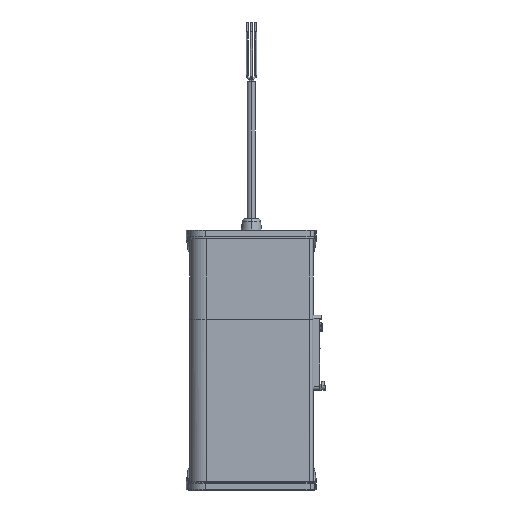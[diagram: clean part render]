
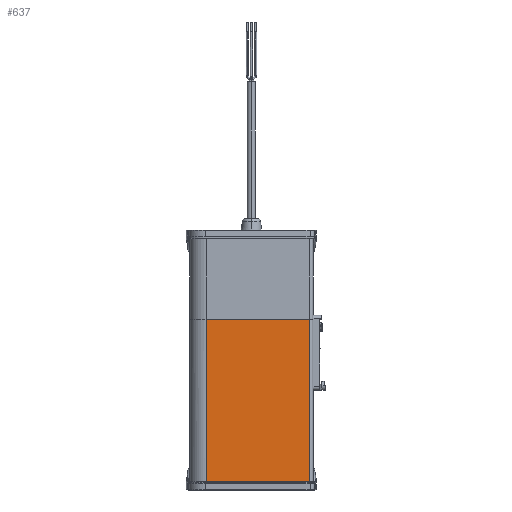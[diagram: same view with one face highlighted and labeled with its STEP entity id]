
A CAD part, left-side view. The second image highlights one B-rep face of the part: STEP entity #637.
In plain terms, the highlighted planar face has unit normal (-1, 0, 0).
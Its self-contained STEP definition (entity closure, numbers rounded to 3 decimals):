
#637=ADVANCED_FACE('',(#1823),#19046,.T.);
#1823=FACE_OUTER_BOUND('',#3009,.T.);
#3009=EDGE_LOOP('',(#4324,#4325,#4326,#4327));
#4324=ORIENTED_EDGE('',*,*,#10115,.F.);
#4325=ORIENTED_EDGE('',*,*,#10118,.F.);
#4326=ORIENTED_EDGE('',*,*,#10116,.F.);
#4327=ORIENTED_EDGE('',*,*,#10117,.F.);
#10115=EDGE_CURVE('',#16523,#16522,#15328,.T.);
#10116=EDGE_CURVE('',#16524,#16525,#15329,.T.);
#10117=EDGE_CURVE('',#16522,#16524,#15330,.T.);
#10118=EDGE_CURVE('',#16525,#16523,#15331,.T.);
#15328=B_SPLINE_CURVE_WITH_KNOTS('',1,(#21178,#21179),.UNSPECIFIED.,.F.,
 .F.,(2,2),(0.,100.),.UNSPECIFIED.);
#15329=B_SPLINE_CURVE_WITH_KNOTS('',1,(#21180,#21181),.UNSPECIFIED.,.F.,
 .F.,(2,2),(-100.,0.),.UNSPECIFIED.);
#15330=B_SPLINE_CURVE_WITH_KNOTS('',1,(#21182,#21183),.UNSPECIFIED.,.F.,
 .F.,(2,2),(-63.,0.),.UNSPECIFIED.);
#15331=B_SPLINE_CURVE_WITH_KNOTS('',1,(#21184,#21185),.UNSPECIFIED.,.F.,
 .F.,(2,2),(0.,63.),.UNSPECIFIED.);
#16522=VERTEX_POINT('',#20930);
#16523=VERTEX_POINT('',#20931);
#16524=VERTEX_POINT('',#20932);
#16525=VERTEX_POINT('',#20933);
#19046=PLANE('',#19358);
#19358=AXIS2_PLACEMENT_3D('',#20823,#20084,$);
#20084=DIRECTION('',(-1.,0.,0.));
#20823=CARTESIAN_POINT('',(269.911,33.808,10.));
#20930=CARTESIAN_POINT('',(269.911,27.508,0.));
#20931=CARTESIAN_POINT('',(269.911,27.508,-100.));
#20932=CARTESIAN_POINT('',(269.911,-35.492,0.));
#20933=CARTESIAN_POINT('',(269.911,-35.492,-100.));
#21178=CARTESIAN_POINT('',(269.911,27.508,-100.));
#21179=CARTESIAN_POINT('',(269.911,27.508,0.));
#21180=CARTESIAN_POINT('',(269.911,-35.492,0.));
#21181=CARTESIAN_POINT('',(269.911,-35.492,-100.));
#21182=CARTESIAN_POINT('',(269.911,27.508,0.));
#21183=CARTESIAN_POINT('',(269.911,-35.492,0.));
#21184=CARTESIAN_POINT('',(269.911,-35.492,-100.));
#21185=CARTESIAN_POINT('',(269.911,27.508,-100.));
